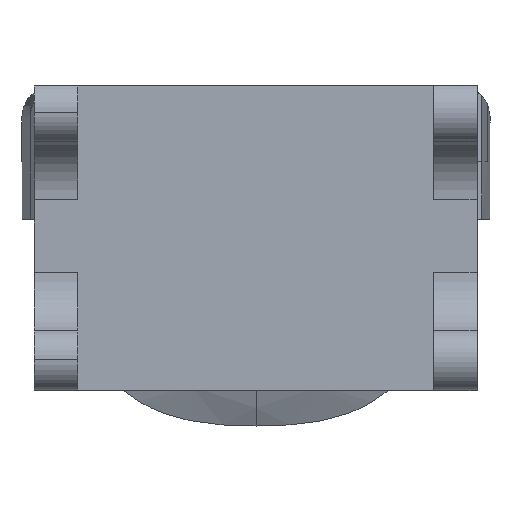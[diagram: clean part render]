
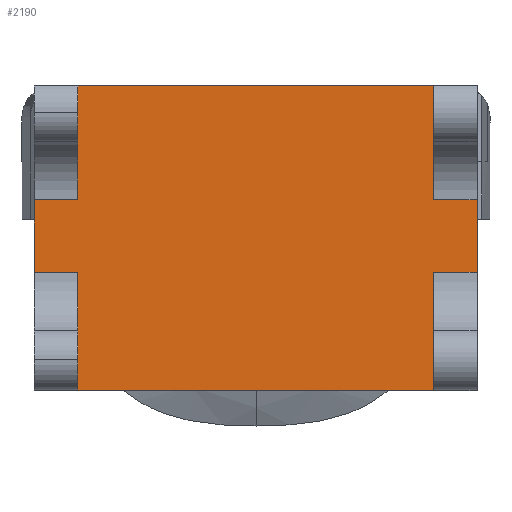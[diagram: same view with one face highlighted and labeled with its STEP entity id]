
A CAD part, front view. The second image highlights one B-rep face of the part: STEP entity #2190.
In plain terms, the highlighted planar face has unit normal (0, -1, 0).
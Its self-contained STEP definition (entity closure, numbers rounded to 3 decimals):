
#793 = CARTESIAN_POINT ( 'NONE',  ( 0., -7.042, 6.056 ) ) ;
#1177 = ORIENTED_EDGE ( 'NONE', *, *, #15168, .F. ) ;
#2190 = ADVANCED_FACE ( 'NONE', ( #4108 ), #31817, .T. ) ;
#2213 = LINE ( 'NONE', #16992, #6529 ) ;
#2757 = DIRECTION ( 'NONE',  ( 1., 0., 0. ) ) ;
#2946 = VERTEX_POINT ( 'NONE', #18107 ) ;
#3345 = DIRECTION ( 'NONE',  ( 0., 0., 1. ) ) ;
#3481 = CARTESIAN_POINT ( 'NONE',  ( 12.776, -7.042, 6.346 ) ) ;
#3513 = ORIENTED_EDGE ( 'NONE', *, *, #25648, .T. ) ;
#4078 = VERTEX_POINT ( 'NONE', #6619 ) ;
#4108 = FACE_OUTER_BOUND ( 'NONE', #20285, .T. ) ;
#4694 = VECTOR ( 'NONE', #20471, 1000. ) ;
#4841 = VERTEX_POINT ( 'NONE', #22603 ) ;
#5333 = CARTESIAN_POINT ( 'NONE',  ( 12.776, -7.042, 6.056 ) ) ;
#5745 = EDGE_CURVE ( 'NONE', #31713, #15089, #7408, .T. ) ;
#5842 = DIRECTION ( 'NONE',  ( -1., 0., 0. ) ) ;
#6106 = DIRECTION ( 'NONE',  ( 0., 0., 1. ) ) ;
#6186 = VERTEX_POINT ( 'NONE', #13819 ) ;
#6210 = CARTESIAN_POINT ( 'NONE',  ( 12.776, -7.042, -5.997 ) ) ;
#6403 = LINE ( 'NONE', #16545, #21841 ) ;
#6529 = VECTOR ( 'NONE', #12036, 1000. ) ;
#6619 = CARTESIAN_POINT ( 'NONE',  ( -10.255, -7.042, -13.654 ) ) ;
#7345 = CARTESIAN_POINT ( 'NONE',  ( 15.576, -7.042, -13.654 ) ) ;
#7408 = LINE ( 'NONE', #15220, #7514 ) ;
#7500 = VECTOR ( 'NONE', #26834, 1000. ) ;
#7514 = VECTOR ( 'NONE', #22852, 1000. ) ;
#7747 = LINE ( 'NONE', #12731, #16529 ) ;
#8722 = VERTEX_POINT ( 'NONE', #21798 ) ;
#9186 = VECTOR ( 'NONE', #22992, 1000. ) ;
#10647 = VERTEX_POINT ( 'NONE', #12595 ) ;
#11296 = CARTESIAN_POINT ( 'NONE',  ( 0., -7.042, 0. ) ) ;
#11330 = AXIS2_PLACEMENT_3D ( 'NONE', #11296, #21399, #21553 ) ;
#11536 = EDGE_CURVE ( 'NONE', #31099, #18049, #15928, .T. ) ;
#12036 = DIRECTION ( 'NONE',  ( 1., 0., 0. ) ) ;
#12081 = CARTESIAN_POINT ( 'NONE',  ( 15.576, -7.042, -1.311 ) ) ;
#12216 = VERTEX_POINT ( 'NONE', #6210 ) ;
#12470 = EDGE_CURVE ( 'NONE', #18754, #31099, #13339, .T. ) ;
#12595 = CARTESIAN_POINT ( 'NONE',  ( 15.576, -7.042, -5.997 ) ) ;
#12731 = CARTESIAN_POINT ( 'NONE',  ( 0., -7.042, -5.997 ) ) ;
#13339 = LINE ( 'NONE', #21470, #25859 ) ;
#13359 = ORIENTED_EDGE ( 'NONE', *, *, #5745, .T. ) ;
#13384 = EDGE_CURVE ( 'NONE', #31713, #2946, #22193, .T. ) ;
#13819 = CARTESIAN_POINT ( 'NONE',  ( -10.255, -7.042, -5.997 ) ) ;
#14240 = VECTOR ( 'NONE', #27979, 1000. ) ;
#14360 = VECTOR ( 'NONE', #3345, 1000. ) ;
#15064 = CARTESIAN_POINT ( 'NONE',  ( -10.255, -7.042, 6.346 ) ) ;
#15089 = VERTEX_POINT ( 'NONE', #24285 ) ;
#15168 = EDGE_CURVE ( 'NONE', #4078, #6186, #23714, .T. ) ;
#15220 = CARTESIAN_POINT ( 'NONE',  ( 0., -7.042, -1.311 ) ) ;
#15928 = LINE ( 'NONE', #3481, #23175 ) ;
#15940 = ORIENTED_EDGE ( 'NONE', *, *, #26982, .T. ) ;
#16463 = EDGE_CURVE ( 'NONE', #18049, #2946, #21694, .T. ) ;
#16529 = VECTOR ( 'NONE', #2757, 1000. ) ;
#16545 = CARTESIAN_POINT ( 'NONE',  ( 15.576, -7.042, -13.654 ) ) ;
#16644 = EDGE_CURVE ( 'NONE', #4841, #6186, #7747, .T. ) ;
#16992 = CARTESIAN_POINT ( 'NONE',  ( 15.576, -7.042, -5.997 ) ) ;
#17782 = EDGE_CURVE ( 'NONE', #15089, #4841, #22645, .T. ) ;
#18049 = VERTEX_POINT ( 'NONE', #5333 ) ;
#18107 = CARTESIAN_POINT ( 'NONE',  ( -10.255, -7.042, 6.056 ) ) ;
#18754 = VERTEX_POINT ( 'NONE', #12081 ) ;
#19367 = DIRECTION ( 'NONE',  ( 0., 0., 1. ) ) ;
#20285 = EDGE_LOOP ( 'NONE', ( #29069, #15940, #3513, #31218, #30160, #23684, #27522, #13359, #20574, #26747, #1177, #29020 ) ) ;
#20471 = DIRECTION ( 'NONE',  ( 1., 0., 0. ) ) ;
#20574 = ORIENTED_EDGE ( 'NONE', *, *, #17782, .T. ) ;
#20623 = LINE ( 'NONE', #7345, #4694 ) ;
#21179 = VECTOR ( 'NONE', #6106, 1000. ) ;
#21399 = DIRECTION ( 'NONE',  ( 0., -1., 0. ) ) ;
#21470 = CARTESIAN_POINT ( 'NONE',  ( 12.776, -7.042, -1.311 ) ) ;
#21515 = EDGE_CURVE ( 'NONE', #8722, #12216, #26083, .T. ) ;
#21553 = DIRECTION ( 'NONE',  ( 0., 0., -1. ) ) ;
#21694 = LINE ( 'NONE', #793, #7500 ) ;
#21798 = CARTESIAN_POINT ( 'NONE',  ( 12.776, -7.042, -13.654 ) ) ;
#21841 = VECTOR ( 'NONE', #19367, 1000. ) ;
#22193 = LINE ( 'NONE', #15064, #14240 ) ;
#22312 = EDGE_CURVE ( 'NONE', #4078, #8722, #20623, .T. ) ;
#22603 = CARTESIAN_POINT ( 'NONE',  ( -13.055, -7.042, -5.997 ) ) ;
#22645 = LINE ( 'NONE', #27940, #9186 ) ;
#22852 = DIRECTION ( 'NONE',  ( -1., 0., 0. ) ) ;
#22992 = DIRECTION ( 'NONE',  ( 0., 0., -1. ) ) ;
#23175 = VECTOR ( 'NONE', #31349, 1000. ) ;
#23684 = ORIENTED_EDGE ( 'NONE', *, *, #16463, .T. ) ;
#23714 = LINE ( 'NONE', #28365, #21179 ) ;
#24285 = CARTESIAN_POINT ( 'NONE',  ( -13.055, -7.042, -1.311 ) ) ;
#25648 = EDGE_CURVE ( 'NONE', #10647, #18754, #6403, .T. ) ;
#25685 = CARTESIAN_POINT ( 'NONE',  ( 12.776, -7.042, -1.311 ) ) ;
#25859 = VECTOR ( 'NONE', #5842, 1000. ) ;
#25913 = CARTESIAN_POINT ( 'NONE',  ( 12.776, -7.042, -13.654 ) ) ;
#26083 = LINE ( 'NONE', #25913, #14360 ) ;
#26747 = ORIENTED_EDGE ( 'NONE', *, *, #16644, .T. ) ;
#26834 = DIRECTION ( 'NONE',  ( -1., 0., 0. ) ) ;
#26982 = EDGE_CURVE ( 'NONE', #12216, #10647, #2213, .T. ) ;
#27099 = CARTESIAN_POINT ( 'NONE',  ( -10.255, -7.042, -1.311 ) ) ;
#27522 = ORIENTED_EDGE ( 'NONE', *, *, #13384, .F. ) ;
#27940 = CARTESIAN_POINT ( 'NONE',  ( -13.055, -7.042, -13.654 ) ) ;
#27979 = DIRECTION ( 'NONE',  ( 0., 0., 1. ) ) ;
#28365 = CARTESIAN_POINT ( 'NONE',  ( -10.255, -7.042, -13.654 ) ) ;
#29020 = ORIENTED_EDGE ( 'NONE', *, *, #22312, .T. ) ;
#29069 = ORIENTED_EDGE ( 'NONE', *, *, #21515, .T. ) ;
#30160 = ORIENTED_EDGE ( 'NONE', *, *, #11536, .T. ) ;
#31099 = VERTEX_POINT ( 'NONE', #25685 ) ;
#31218 = ORIENTED_EDGE ( 'NONE', *, *, #12470, .T. ) ;
#31349 = DIRECTION ( 'NONE',  ( 0., 0., 1. ) ) ;
#31713 = VERTEX_POINT ( 'NONE', #27099 ) ;
#31817 = PLANE ( 'NONE',  #11330 ) ;
